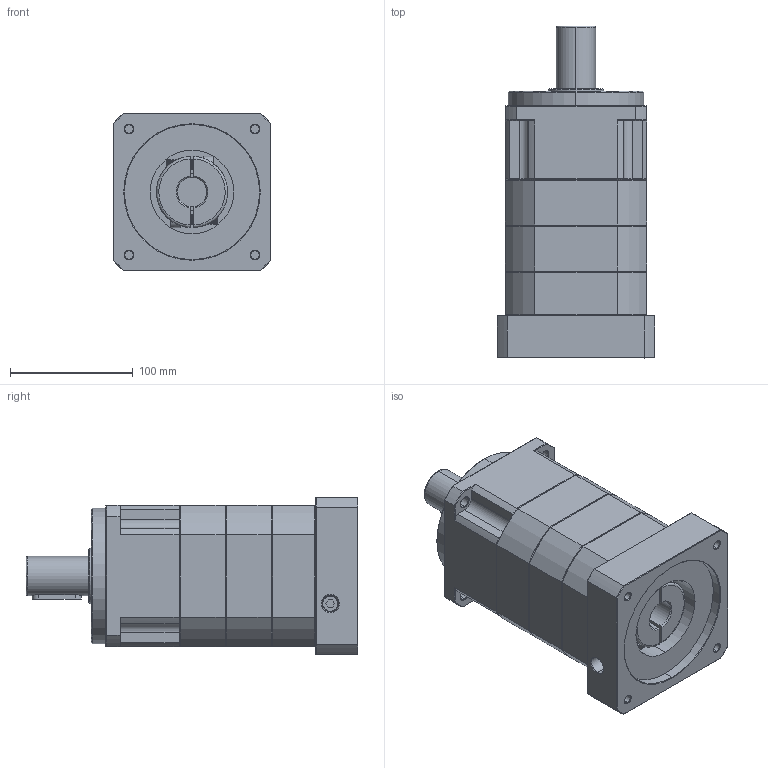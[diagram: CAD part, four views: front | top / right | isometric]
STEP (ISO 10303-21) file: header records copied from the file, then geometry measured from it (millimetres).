
FILE_DESCRIPTION (( 'STEP AP214' ), '1' );
FILE_NAME ('ZPB115-D32-L3-P1-24-110-145-M8.step', '2024-06-11T19:33:45', ( 'Windows 蚚誧' ), ( 'Organization' ), 'SwSTEP 2.0', 'SolidWorks 2016', '' );
FILE_SCHEMA (( 'AUTOMOTIVE_DESIGN' ));
Length unit declared in the file: millimetre
Products named in the file (1): ZPB115-D32-L3-P1-24-110-145-M8
Bounding box: 128 x 270 x 128 mm (x, y, z)
Surface area: 170365.4 mm2 (no closed solid volume)
Topology: 0 solids, 29 shells, 1831 faces, 4934 edges, 3163 vertices
Faces by surface type: plane 940, bspline 381, cone 282, cylinder 228
Full cylindrical faces by diameter (mm): 10.2 x1
Entity records: 99092 total; most frequent: CARTESIAN_POINT 49319, ORIENTED_EDGE 9838, DIRECTION 7545, EDGE_CURVE 4928, LINE 3181, VECTOR 3181, VERTEX_POINT 3161, AXIS2_PLACEMENT_3D 2182
